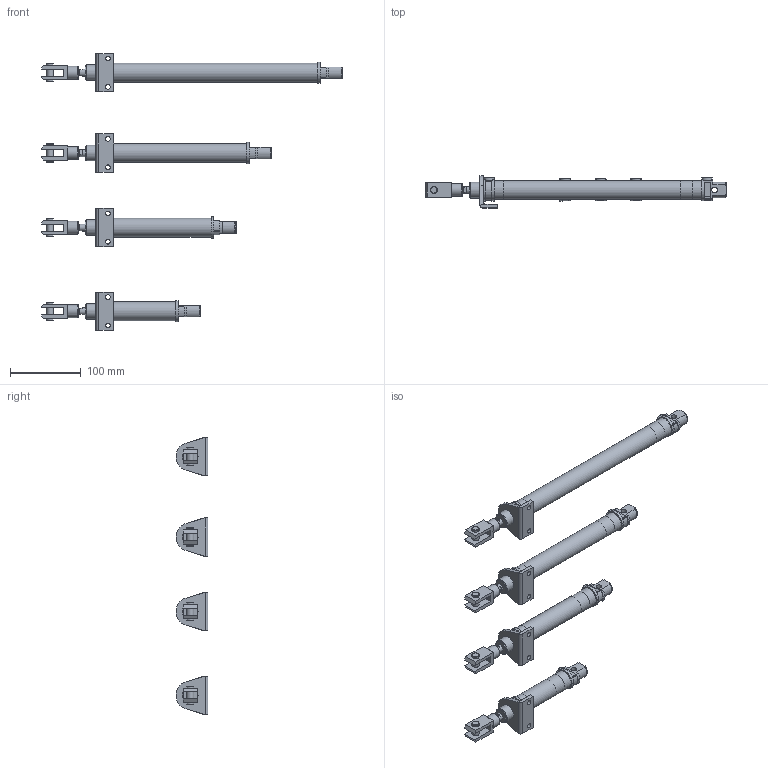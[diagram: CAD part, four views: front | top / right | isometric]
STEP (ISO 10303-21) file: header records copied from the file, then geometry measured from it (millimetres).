
FILE_DESCRIPTION(/* description */ (''),/* implementation_level */ '2;1');
FILE_NAME(/* name */ 'C:\Users\admin\Desktop\inventor\pneumatica mw\step\cilindri_tubolari.stp',/* time_stamp */ '2021-08-26T11:13:57+02:00',/* author */ ('admin'),/* organization */ (''),/* preprocessor_version */ 'ST-DEVELOPER v18.1',/* originating_system */ 'Autodesk Inventor 2022',/* authorisation */ '');
FILE_SCHEMA (('AUTOMOTIVE_DESIGN { 1 0 10303 214 3 1 1 }'));
Length unit declared in the file: millimetre
Products named in the file (19): Assieme_cilindri_2; 1103250050CP/0-GK-M-0-A-0-0; ISO_6432_TP_DI25-110-50-BR; ISO_6432_TP_DI25-11050-R; 1103250100CP/0-GK-M-0-A-0-0; ISO_6432_TP_DI25-110-100-BR; ISO_6432_TP_DI25-110100-R; 1103250150CP/0-GK-M-0-A-0-0; ISO_6432_TP_DI25-110-150-BR; ISO_6432_TP_DI25-110150-R; 1103250250CP/0-GK-M-0-A-0-0; ISO_6432_TP_DI25-110-HF; ISO_6432_TP_DI25-110-250-BR; ISO_6432_TP_DI25-110-HR; ISO_6432_TP_DI25-110-PR; ISO_6432_TP_DI25-110250-R; W0950322020-32(old); W0950200001-16_; ISO_6432_TP_DI25-110-PF
Assembly tree (36 placements, depth 3):
  Assieme_cilindri_2
    1103250050CP/0-GK-M-0-A-0-0
      ISO_6432_TP_DI25-110-HF
      ISO_6432_TP_DI25-110-50-BR
      ISO_6432_TP_DI25-110-HR
      ISO_6432_TP_DI25-110-PR
      ISO_6432_TP_DI25-11050-R
      W0950322020-32(old)
      W0950200001-16_
      ISO_6432_TP_DI25-110-PF
    1103250100CP/0-GK-M-0-A-0-0
      ISO_6432_TP_DI25-110-HF
      ISO_6432_TP_DI25-110-100-BR
      ISO_6432_TP_DI25-110-HR
      ISO_6432_TP_DI25-110-PR
      ISO_6432_TP_DI25-110100-R
      W0950322020-32(old)
      W0950200001-16_
      ISO_6432_TP_DI25-110-PF
    1103250150CP/0-GK-M-0-A-0-0
      ISO_6432_TP_DI25-110-HF
      ISO_6432_TP_DI25-110-150-BR
      ISO_6432_TP_DI25-110-HR
      ISO_6432_TP_DI25-110-PR
      ISO_6432_TP_DI25-110150-R
      W0950322020-32(old)
      W0950200001-16_
      ISO_6432_TP_DI25-110-PF
    1103250250CP/0-GK-M-0-A-0-0
      ISO_6432_TP_DI25-110-HF
      ISO_6432_TP_DI25-110-250-BR
      ISO_6432_TP_DI25-110-HR
      ISO_6432_TP_DI25-110-PR
      ISO_6432_TP_DI25-110250-R
      W0950322020-32(old)
      W0950200001-16_
      ISO_6432_TP_DI25-110-PF
Bounding box: 425 x 44.93 x 390.45 mm (x, y, z)
Volume: 396136.2 mm3; surface area: 264371.1 mm2
Topology: 32 solids, 32 shells, 548 faces, 1276 edges, 840 vertices
Faces by surface type: plane 300, cylinder 184, torus 40, cone 24
Full cylindrical faces by diameter (mm): 1.946 x8, 6.5 x8, 8 x4, 8.4 x4, 8.566 x8, 8.647 x4, 10 x24, 14.88 x8, 18 x4, 19.8 x4, 22 x8, 25 x16, 26.52 x4, 30 x8
Entity records: 6647 total; most frequent: CARTESIAN_POINT 1185, DIRECTION 1134, ORIENTED_EDGE 902, EDGE_CURVE 451, AXIS2_PLACEMENT_3D 446, VERTEX_POINT 297, LINE 242, VECTOR 242
